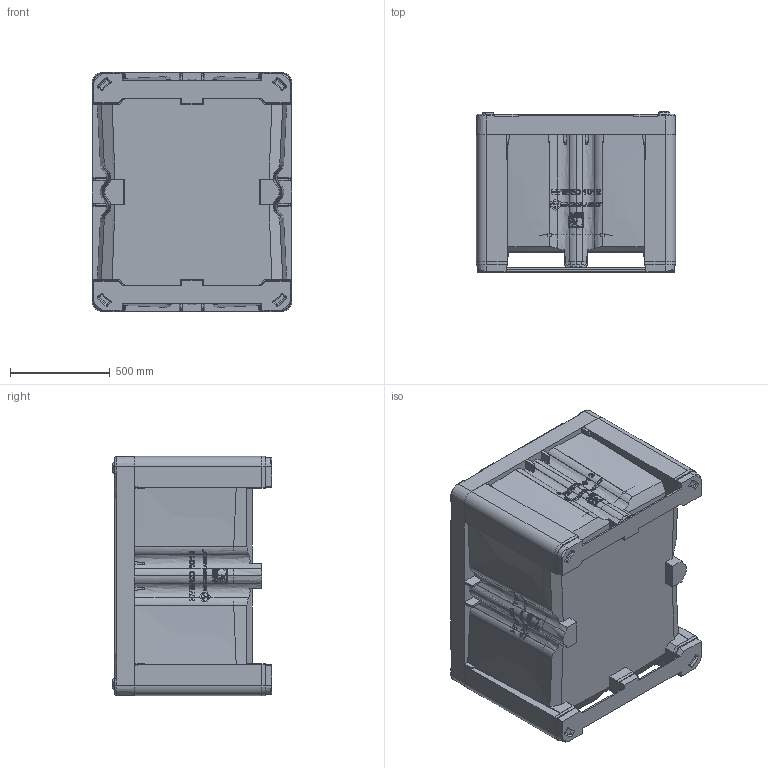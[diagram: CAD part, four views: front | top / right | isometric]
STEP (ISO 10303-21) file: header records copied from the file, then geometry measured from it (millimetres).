
FILE_DESCRIPTION (( 'STEP AP214' ), '1' );
FILE_NAME ('1110xxxxxxxx 1012-790 Hybrid Block ShortFoot 4way.STEP', '2018-08-24T20:50:52', ( '' ), ( '' ), 'SwSTEP 2.0', 'SolidWorks 2018', '' );
FILE_SCHEMA (( 'AUTOMOTIVE_DESIGN' ));
Products named in the file (1): 1110xxxxxxxx 1012-790 Hybrid Block ShortFoot 4way
Bounding box: 1000 x 802.5 x 1200 mm (x, y, z)
Volume: 110496612.9 mm3; surface area: 9905622.7 mm2
Topology: 7 solids, 7 shells, 6175 faces, 16964 edges, 11283 vertices
Faces by surface type: plane 3029, bspline 2652, cylinder 464, sphere 18, cone 8, torus 4
Entity records: 334405 total; most frequent: CARTESIAN_POINT 204684, ORIENTED_EDGE 33880, EDGE_CURVE 16940, DIRECTION 14386, VERTEX_POINT 11279, B_SPLINE_CURVE_WITH_KNOTS 9706, LINE 7018, VECTOR 7018
